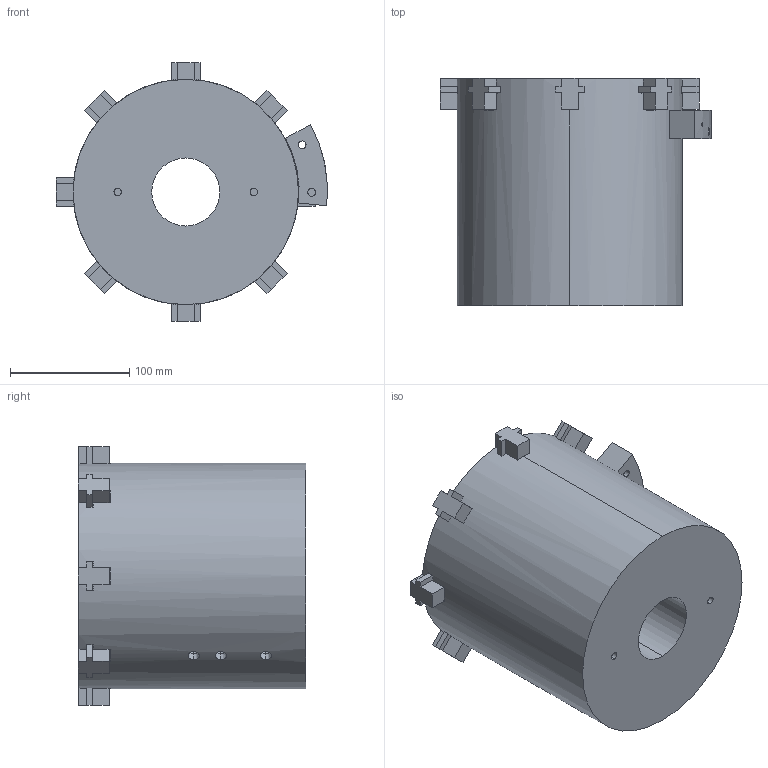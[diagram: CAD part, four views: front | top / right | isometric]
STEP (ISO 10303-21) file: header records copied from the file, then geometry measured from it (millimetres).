
FILE_DESCRIPTION (( 'STEP AP214' ), '1' );
FILE_NAME ('agp10or_open.STEP', '2019-11-01T13:27:50', ( 'cad' ), ( '' ), 'SwSTEP 2.0', 'SolidWorks 2017', '' );
FILE_SCHEMA (( 'AUTOMOTIVE_DESIGN' ));
Length unit declared in the file: inch
Products named in the file (5): _rail_agp10orx; agp-10_Jaw; _body_agp10orx; agp10or_open; agp1012
Assembly tree (18 placements, depth 2):
  agp10or_open
    _body_agp10orx
    agp-10_Jaw  x8
    _rail_agp10orx  x8
    agp1012
Bounding box: 227.66 x 191.13 x 217.17 mm (x, y, z)
Volume: 4871958.4 mm3; surface area: 303393.3 mm2
Topology: 18 solids, 18 shells, 644 faces, 1680 edges, 1033 vertices
Faces by surface type: plane 276, cylinder 256, cone 112
Entity records: 10007 total; most frequent: CARTESIAN_POINT 2186, DIRECTION 1609, ORIENTED_EDGE 1510, EDGE_CURVE 755, AXIS2_PLACEMENT_3D 568, VERTEX_POINT 501, LINE 473, VECTOR 473
